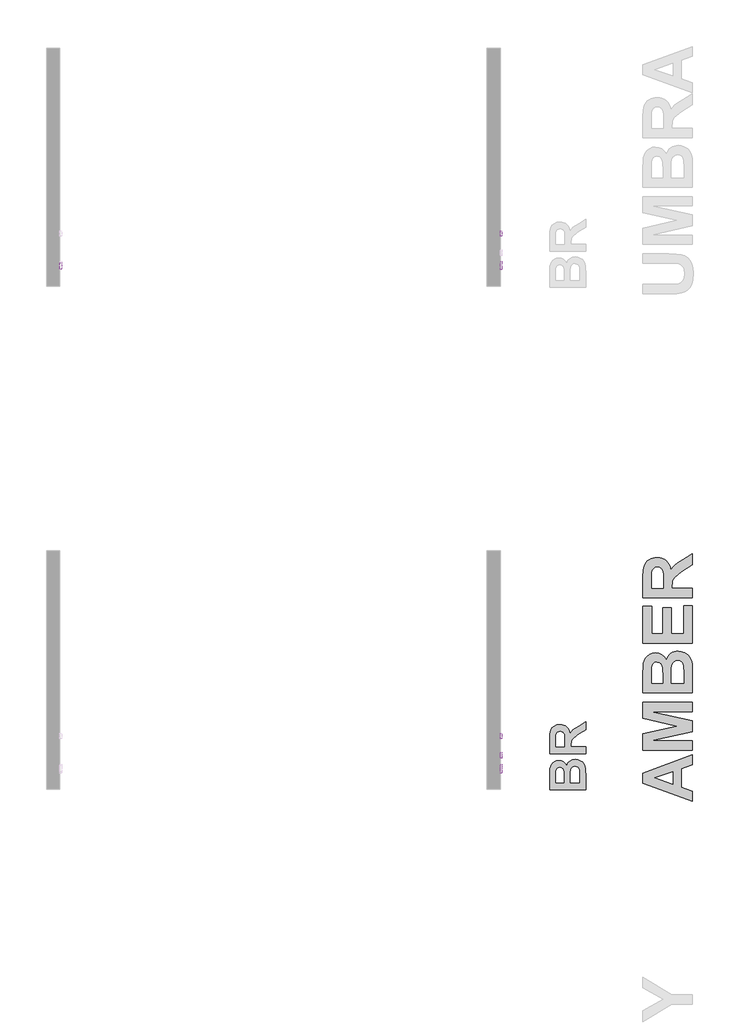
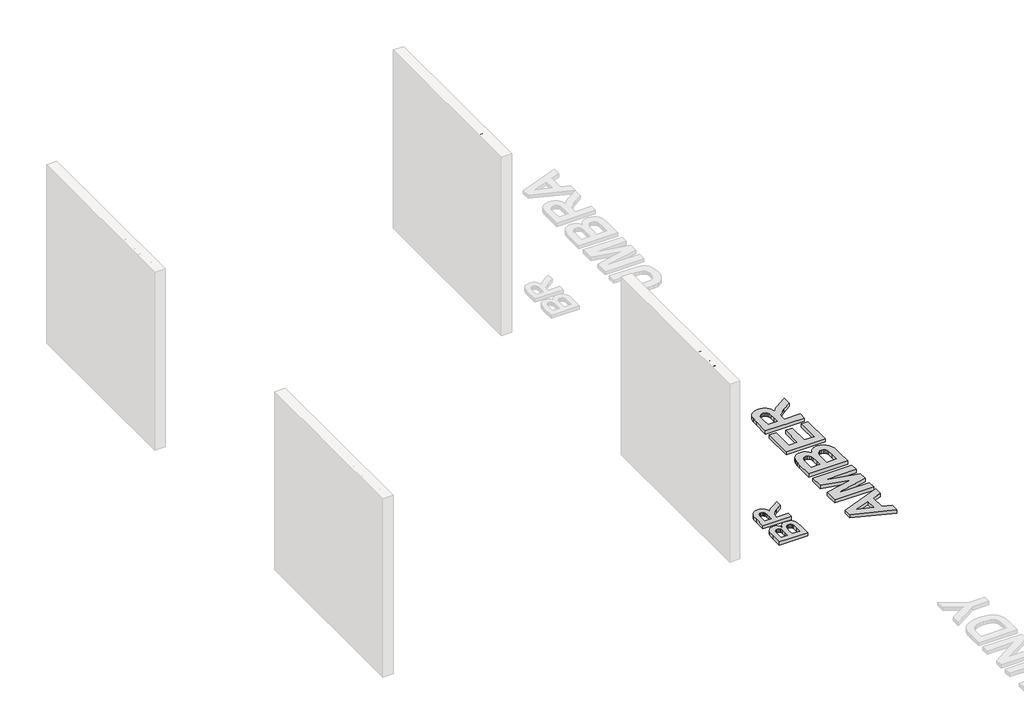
# One storey, part 8 of 10: 8 proxies.
"""IFC4 building model written with IfcOpenShell, lengths in millimetres."""

from ifc_helpers import new_model, si_unit, frame, origin, origin_with_axes, place, context, project, spatial, polyline, outline, extrude, element, save

model = new_model("IFC4")

# Units and contexts
model_context = context("Model", 3, world=origin())
ifc_project = project(units=[si_unit("LENGTHUNIT", "METRE", prefix="MILLI")], contexts=[model_context])

# Site, building, storey
site = spatial("IfcSite", under=ifc_project)
building = spatial("IfcBuilding", under=site)
storey = spatial("IfcBuildingStorey", under=building, Name="PORTOBELLO - SHOWROOM", Elevation=0.0)

# Proxies
placement = place(None, origin())
element("IfcBuildingElementProxy", 1, Name="10mm Arial", ObjectType="10mm Arial", at=placement, inside=storey, context=model_context, shape_type="SweptSolid", body=[
    extrude(outline(polyline([(15160.313312, 2410.158275), (15172.8703507, 2411.7279049), (15179.1979211, 2398.7907214), (15192.3190456, 2394.4619766), (15201.3198917, 2395.9672271), (15208.064395, 2400.4829786), (15212.2766438, 2407.4880649), (15213.6807267, 2416.4613199), (15208.4200142, 2431.3728034), (15201.8134667, 2435.4746877), (15192.5152493, 2436.8419824), (15181.4910522, 2434.6592159), (15174.4399806, 2428.9938332), (15161.8829418, 2430.563463), (15172.8703507, 2482.361248), (15221.528876, 2482.361248), (15221.528876, 2469.8042092), (15183.0238938, 2469.8042092), (15177.6282912, 2442.1394832), (15186.5984805, 2447.5841367), (15195.9978655, 2449.3990212), (15207.7333012, 2447.1488097), (15217.482174, 2440.3981751), (15224.0488676, 2430.1097419), (15226.2377655, 2417.2461348), (15224.2695968, 2404.6890961), (15218.3650908, 2393.9469418), (15207.0588508, 2384.9154388), (15192.2699946, 2381.9049378), (15179.9367507, 2383.839384), (15170.1112358, 2389.6427224), (15163.3759296, 2398.6405029), (15160.313312, 2410.158275)])), frame((-12116.0080774, 0.0, 0.0), z_axis=(1.0, 0.0, 0.0), x_axis=(0.0, 1.0, 0.0)), (0.0, 0.0, 1.0), 20.0),
    extrude(outline(polyline([(15243.5036938, 2383.4745677), (15243.5036938, 2396.0316064), (15256.0607326, 2396.0316064), (15256.0607326, 2383.4745677), (15253.8043897, 2370.635486), (15246.6429535, 2363.0693797), (15243.5036938, 2367.7782692), (15248.1144815, 2373.1983973), (15249.7576877, 2383.4745677), (15243.5036938, 2383.4745677)])), frame((-12116.0080774, 0.0, 0.0), z_axis=(1.0, 0.0, 0.0), x_axis=(0.0, 1.0, 0.0)), (0.0, 0.0, 1.0), 20.0),
    extrude(outline(polyline([(15317.2762966, 2383.4745677), (15317.2762966, 2407.0190154), (15271.7570311, 2407.0190154), (15271.7570311, 2419.5760541), (15320.4155563, 2482.361248), (15329.8333354, 2482.361248), (15329.8333354, 2419.5760541), (15342.3903741, 2419.5760541), (15342.3903741, 2407.0190154), (15329.8333354, 2407.0190154), (15329.8333354, 2383.4745677), (15317.2762966, 2383.4745677)]), holes=[polyline([(15317.2762966, 2419.5760541), (15317.2762966, 2458.3753419), (15287.2080748, 2419.5760541), (15317.2762966, 2419.5760541)])]), frame((-12116.0080774, 0.0, 0.0), z_axis=(1.0, 0.0, 0.0), x_axis=(0.0, 1.0, 0.0)), (0.0, 0.0, 1.0), 20.0),
    extrude(outline(polyline([(15348.6688935, 2383.4745677), (15375.4997537, 2420.5815982), (15350.2385234, 2457.2471704), (15365.2971597, 2457.2471704), (15377.4863165, 2439.5643092), (15383.2007501, 2431.2501761), (15388.1548943, 2438.0682557), (15402.0363083, 2457.2471704), (15417.1439955, 2457.2471704), (15390.607441, 2420.5570728), (15416.1629769, 2383.4745677), (15401.0798151, 2383.4745677), (15385.6778222, 2405.792742), (15382.8819191, 2409.8884949), (15363.7765808, 2383.4745677), (15348.6688935, 2383.4745677)])), frame((-12116.0080774, 0.0, 0.0), z_axis=(1.0, 0.0, 0.0), x_axis=(0.0, 1.0, 0.0)), (0.0, 0.0, 1.0), 20.0),
    extrude(outline(polyline([(15471.1000215, 2383.4745677), (15458.5429827, 2383.4745677), (15458.5429827, 2461.7598562), (15446.6481316, 2453.2863076), (15433.4289052, 2446.9464746), (15433.4289052, 2458.8168003), (15451.8352677, 2470.5644987), (15463.0066176, 2483.9308778), (15471.1000215, 2483.9308778), (15471.1000215, 2383.4745677)])), frame((-12116.0080774, 0.0, 0.0), z_axis=(1.0, 0.0, 0.0), x_axis=(0.0, 1.0, 0.0)), (0.0, 0.0, 1.0), 20.0),
    extrude(outline(polyline([(15548.011884, 2383.4745677), (15535.4548452, 2383.4745677), (15535.4548452, 2461.7598562), (15523.559994, 2453.2863076), (15510.3407677, 2446.9464746), (15510.3407677, 2458.8168003), (15528.7471301, 2470.5644987), (15539.9184801, 2483.9308778), (15548.011884, 2483.9308778), (15548.011884, 2383.4745677)])), frame((-12116.0080774, 0.0, 0.0), z_axis=(1.0, 0.0, 0.0), x_axis=(0.0, 1.0, 0.0)), (0.0, 0.0, 1.0), 20.0),
    extrude(outline(polyline([(15584.1133704, 2383.4745677), (15584.1133704, 2396.0316064), (15596.6704092, 2396.0316064), (15596.6704092, 2383.4745677), (15594.4140663, 2370.635486), (15587.2526301, 2363.0693797), (15584.1133704, 2367.7782692), (15588.7241581, 2373.1983973), (15590.3673643, 2383.4745677), (15584.1133704, 2383.4745677)])), frame((-12116.0080774, 0.0, 0.0), z_axis=(1.0, 0.0, 0.0), x_axis=(0.0, 1.0, 0.0)), (0.0, 0.0, 1.0), 20.0),
    extrude(outline(polyline([(15617.0755972, 2410.158275), (15629.632636, 2411.7279049), (15635.9602063, 2398.7907214), (15649.0813308, 2394.4619766), (15658.0821769, 2395.9672271), (15664.8266802, 2400.4829786), (15669.038929, 2407.4880649), (15670.443012, 2416.4613199), (15665.1822994, 2431.3728034), (15658.5757519, 2435.4746877), (15649.2775345, 2436.8419824), (15638.2533374, 2434.6592159), (15631.2022658, 2428.9938332), (15618.645227, 2430.563463), (15629.632636, 2482.361248), (15678.2911612, 2482.361248), (15678.2911612, 2469.8042092), (15639.786179, 2469.8042092), (15634.3905764, 2442.1394832), (15643.3607657, 2447.5841367), (15652.7601507, 2449.3990212), (15664.4955864, 2447.1488097), (15674.2444592, 2440.3981751), (15680.8111529, 2430.1097419), (15683.0000507, 2417.2461348), (15681.0318821, 2404.6890961), (15675.127376, 2393.9469418), (15663.821136, 2384.9154388), (15649.0322798, 2381.9049378), (15636.6990359, 2383.839384), (15626.873521, 2389.6427224), (15620.1382148, 2398.6405029), (15617.0755972, 2410.158275)])), frame((-12116.0080774, 0.0, 0.0), z_axis=(1.0, 0.0, 0.0), x_axis=(0.0, 1.0, 0.0)), (0.0, 0.0, 1.0), 20.0),
])
element("IfcBuildingElementProxy", 2, Name="10mm Arial", ObjectType="10mm Arial", at=placement, inside=storey, context=model_context, shape_type="SweptSolid", body=[
    extrude(outline(polyline([(9453.3480795, 2518.4745677), (9493.447217, 2618.9308778), (9504.1403203, 2618.9308778), (9544.2149323, 2518.4745677), (9530.9466551, 2518.4745677), (9519.4687368, 2549.8671646), (9478.0697496, 2549.8671646), (9466.5918314, 2518.4745677), (9453.3480795, 2518.4745677)]), holes=[polyline([(9482.6805373, 2562.4242034), (9514.8824746, 2562.4242034), (9505.808052, 2587.121348), (9498.7692432, 2606.373839), (9492.5152493, 2589.279589), (9482.6805373, 2562.4242034)])]), frame((-7116.0080774, 0.0, 0.0), z_axis=(1.0, 0.0, 0.0), x_axis=(0.0, 1.0, 0.0)), (0.0, 0.0, 1.0), 20.0),
    extrude(outline(polyline([(9556.0607326, 2518.4745677), (9556.0607326, 2592.2471704), (9568.6177714, 2592.2471704), (9568.6177714, 2580.1070646), (9577.2507355, 2590.0521412), (9589.5379942, 2593.8168003), (9602.1195584, 2589.9785648), (9609.0357399, 2579.2241478), (9618.8336637, 2590.1686372), (9631.2067615, 2593.8168003), (9640.6460003, 2592.299287), (9647.6265612, 2587.7467474), (9651.9399776, 2580.0365539), (9653.377783, 2569.0460793), (9653.377783, 2518.4745677), (9640.8207443, 2518.4745677), (9640.8207443, 2563.6504767), (9639.6557846, 2574.1351135), (9635.4374044, 2579.2977242), (9628.2637055, 2581.2597615), (9615.9151332, 2576.2320409), (9612.2271162, 2569.6898728), (9610.9977772, 2560.1188095), (9610.9977772, 2518.4745677), (9598.4407384, 2518.4745677), (9598.4407384, 2565.0484283), (9595.5344707, 2577.2130596), (9586.006327, 2581.2597615), (9576.7111753, 2578.5619602), (9570.5307577, 2570.66476), (9568.6177714, 2555.6797001), (9568.6177714, 2518.4745677), (9556.0607326, 2518.4745677)])), frame((-7116.0080774, 0.0, 0.0), z_axis=(1.0, 0.0, 0.0), x_axis=(0.0, 1.0, 0.0)), (0.0, 0.0, 1.0), 20.0),
    extrude(outline(polyline([(9684.77038, 2518.4745677), (9672.2133412, 2518.4745677), (9672.2133412, 2618.9308778), (9684.77038, 2618.9308778), (9684.77038, 2581.6766944), (9693.5627597, 2590.7817738), (9704.4888549, 2593.8168003), (9717.0704191, 2591.0822108), (9726.8315548, 2583.3934771), (9732.8280313, 2571.4373122), (9734.998535, 2556.464515), (9732.7513892, 2539.7013588), (9726.0099516, 2527.2301591), (9716.1169916, 2519.4862431), (9704.4152785, 2516.9049378), (9693.25006, 2520.2342699), (9684.77038, 2530.222266), (9684.77038, 2518.4745677)]), holes=[polyline([(9684.77038, 2555.8759038), (9688.2039453, 2538.3156699), (9694.7829016, 2531.6753999), (9703.336158, 2529.4619766), (9710.5834333, 2531.0929201), (9716.7761135, 2535.9857506), (9721.0251506, 2544.1098114), (9722.4414963, 2555.4344454), (9721.0833986, 2566.9246264), (9717.0091055, 2574.9567167), (9711.0095633, 2579.6840003), (9703.8757183, 2581.2597615), (9696.6284429, 2579.628818), (9690.4357627, 2574.7359875), (9686.1867257, 2566.7590795), (9684.77038, 2555.8759038)])]), frame((-7116.0080774, 0.0, 0.0), z_axis=(1.0, 0.0, 0.0), x_axis=(0.0, 1.0, 0.0)), (0.0, 0.0, 1.0), 20.0),
    extrude(outline(polyline([(9800.7758358, 2540.4493855), (9813.0876199, 2538.8797557), (9808.6515762, 2529.602998), (9801.5729134, 2522.6684224), (9792.0110472, 2518.345809), (9780.1253931, 2516.9049378), (9765.3917192, 2519.391207), (9754.0548224, 2526.8500144), (9746.8259412, 2538.7969822), (9744.4163141, 2554.7477324), (9746.8504667, 2571.2349771), (9754.1529243, 2583.5651553), (9765.3365369, 2591.253889), (9779.4141546, 2593.8168003), (9793.0533796, 2591.2600204), (9803.9518837, 2583.5896808), (9811.0979914, 2571.2840281), (9813.4800273, 2554.8213088), (9813.4064509, 2551.4367944), (9756.9733529, 2551.4367944), (9759.1469223, 2542.0374095), (9764.1961027, 2535.1273593), (9771.4832319, 2530.8783223), (9780.3706478, 2529.4619766), (9792.6824319, 2532.0862015), (9800.7758358, 2540.4493855)]), holes=[polyline([(9756.9733529, 2563.9938332), (9800.9229886, 2563.9938332), (9795.895268, 2575.3736496), (9788.5744163, 2579.7882335), (9779.3651037, 2581.2597615), (9763.9017971, 2576.5631347), (9759.0365577, 2571.0724959), (9756.9733529, 2563.9938332)])]), frame((-7116.0080774, 0.0, 0.0), z_axis=(1.0, 0.0, 0.0), x_axis=(0.0, 1.0, 0.0)), (0.0, 0.0, 1.0), 20.0),
    extrude(outline(polyline([(9826.0370661, 2518.4745677), (9826.0370661, 2592.2471704), (9837.024475, 2592.2471704), (9837.024475, 2581.3333379), (9844.8235733, 2591.3887791), (9852.6717226, 2593.8168003), (9865.2778123, 2589.9417766), (9861.0839575, 2578.6845875), (9852.2547896, 2581.2597615), (9845.1546671, 2578.7826894), (9840.6297186, 2571.9155588), (9838.5941049, 2557.24933), (9838.5941049, 2518.4745677), (9826.0370661, 2518.4745677)])), frame((-7116.0080774, 0.0, 0.0), z_axis=(1.0, 0.0, 0.0), x_axis=(0.0, 1.0, 0.0)), (0.0, 0.0, 1.0), 20.0),
])
element("IfcBuildingElementProxy", 3, Name="10mm Arial", ObjectType="10mm Arial", at=placement, inside=storey, context=model_context, shape_type="SweptSolid", body=[
    extrude(outline(polyline([(9507.4022074, 2383.4745677), (9494.8451686, 2383.4745677), (9494.8451686, 2461.7598562), (9482.9503174, 2453.2863076), (9469.7310911, 2446.9464746), (9469.7310911, 2458.8168003), (9488.1374535, 2470.5644987), (9499.3088035, 2483.9308778), (9507.4022074, 2483.9308778), (9507.4022074, 2383.4745677)])), frame((-7116.0080774, 0.0, 0.0), z_axis=(1.0, 0.0, 0.0), x_axis=(0.0, 1.0, 0.0)), (0.0, 0.0, 1.0), 20.0),
    extrude(outline(polyline([(9584.3140698, 2383.4745677), (9571.7570311, 2383.4745677), (9571.7570311, 2461.7598562), (9559.8621799, 2453.2863076), (9546.6429535, 2446.9464746), (9546.6429535, 2458.8168003), (9565.049316, 2470.5644987), (9576.2206659, 2483.9308778), (9584.3140698, 2483.9308778), (9584.3140698, 2383.4745677)])), frame((-7116.0080774, 0.0, 0.0), z_axis=(1.0, 0.0, 0.0), x_axis=(0.0, 1.0, 0.0)), (0.0, 0.0, 1.0), 20.0),
    extrude(outline(polyline([(9620.4155563, 2383.4745677), (9620.4155563, 2396.0316064), (9632.972595, 2396.0316064), (9632.972595, 2383.4745677), (9630.7162521, 2370.635486), (9623.554816, 2363.0693797), (9620.4155563, 2367.7782692), (9625.026344, 2373.1983973), (9626.6695502, 2383.4745677), (9620.4155563, 2383.4745677)])), frame((-7116.0080774, 0.0, 0.0), z_axis=(1.0, 0.0, 0.0), x_axis=(0.0, 1.0, 0.0)), (0.0, 0.0, 1.0), 20.0),
    extrude(outline(polyline([(9653.377783, 2410.158275), (9665.9348218, 2411.7279049), (9672.2623921, 2398.7907214), (9685.3835166, 2394.4619766), (9694.3843628, 2395.9672271), (9701.128866, 2400.4829786), (9705.3411149, 2407.4880649), (9706.7451978, 2416.4613199), (9701.4844853, 2431.3728034), (9694.8779378, 2435.4746877), (9685.5797204, 2436.8419824), (9674.5555232, 2434.6592159), (9667.5044517, 2428.9938332), (9654.9474129, 2430.563463), (9665.9348218, 2482.361248), (9714.593347, 2482.361248), (9714.593347, 2469.8042092), (9676.0883649, 2469.8042092), (9670.6927623, 2442.1394832), (9679.6629516, 2447.5841367), (9689.0623366, 2449.3990212), (9700.7977722, 2447.1488097), (9710.5466451, 2440.3981751), (9717.1133387, 2430.1097419), (9719.3022366, 2417.2461348), (9717.3340679, 2404.6890961), (9711.4295619, 2393.9469418), (9700.1233219, 2384.9154388), (9685.3344657, 2381.9049378), (9673.0012218, 2383.839384), (9663.1757069, 2389.6427224), (9656.4404007, 2398.6405029), (9653.377783, 2410.158275)])), frame((-7116.0080774, 0.0, 0.0), z_axis=(1.0, 0.0, 0.0), x_axis=(0.0, 1.0, 0.0)), (0.0, 0.0, 1.0), 20.0),
    extrude(outline(polyline([(9725.580756, 2383.4745677), (9752.4116161, 2420.5815982), (9727.1503858, 2457.2471704), (9742.2090221, 2457.2471704), (9754.3981789, 2439.5643092), (9760.1126126, 2431.2501761), (9765.0667568, 2438.0682557), (9778.9481707, 2457.2471704), (9794.055858, 2457.2471704), (9767.5193034, 2420.5570728), (9793.0748393, 2383.4745677), (9777.9916775, 2383.4745677), (9762.5896847, 2405.792742), (9759.7937815, 2409.8884949), (9740.6884432, 2383.4745677), (9725.580756, 2383.4745677)])), frame((-7116.0080774, 0.0, 0.0), z_axis=(1.0, 0.0, 0.0), x_axis=(0.0, 1.0, 0.0)), (0.0, 0.0, 1.0), 20.0),
    extrude(outline(polyline([(9848.011884, 2383.4745677), (9835.4548452, 2383.4745677), (9835.4548452, 2461.7598562), (9823.559994, 2453.2863076), (9810.3407677, 2446.9464746), (9810.3407677, 2458.8168003), (9828.7471301, 2470.5644987), (9839.9184801, 2483.9308778), (9848.011884, 2483.9308778), (9848.011884, 2383.4745677)])), frame((-7116.0080774, 0.0, 0.0), z_axis=(1.0, 0.0, 0.0), x_axis=(0.0, 1.0, 0.0)), (0.0, 0.0, 1.0), 20.0),
    extrude(outline(polyline([(9924.9237464, 2383.4745677), (9912.3667077, 2383.4745677), (9912.3667077, 2461.7598562), (9900.4718565, 2453.2863076), (9887.2526301, 2446.9464746), (9887.2526301, 2458.8168003), (9905.6589926, 2470.5644987), (9916.8303425, 2483.9308778), (9924.9237464, 2483.9308778), (9924.9237464, 2383.4745677)])), frame((-7116.0080774, 0.0, 0.0), z_axis=(1.0, 0.0, 0.0), x_axis=(0.0, 1.0, 0.0)), (0.0, 0.0, 1.0), 20.0),
    extrude(outline(polyline([(9961.0252329, 2383.4745677), (9961.0252329, 2396.0316064), (9973.5822716, 2396.0316064), (9973.5822716, 2383.4745677), (9971.3259287, 2370.635486), (9964.1644926, 2363.0693797), (9961.0252329, 2367.7782692), (9965.6360206, 2373.1983973), (9967.2792268, 2383.4745677), (9961.0252329, 2383.4745677)])), frame((-7116.0080774, 0.0, 0.0), z_axis=(1.0, 0.0, 0.0), x_axis=(0.0, 1.0, 0.0)), (0.0, 0.0, 1.0), 20.0),
    extrude(outline(polyline([(9993.9874596, 2410.158275), (10006.5444984, 2411.7279049), (10012.8720687, 2398.7907214), (10025.9931932, 2394.4619766), (10034.9940394, 2395.9672271), (10041.7385426, 2400.4829786), (10045.9507915, 2407.4880649), (10047.3548744, 2416.4613199), (10042.0941619, 2431.3728034), (10035.4876144, 2435.4746877), (10026.189397, 2436.8419824), (10015.1651998, 2434.6592159), (10008.1141283, 2428.9938332), (9995.5570895, 2430.563463), (10006.5444984, 2482.361248), (10055.2030236, 2482.361248), (10055.2030236, 2469.8042092), (10016.6980415, 2469.8042092), (10011.3024389, 2442.1394832), (10020.2726282, 2447.5841367), (10029.6720132, 2449.3990212), (10041.4074488, 2447.1488097), (10051.1563217, 2440.3981751), (10057.7230153, 2430.1097419), (10059.9119132, 2417.2461348), (10057.9437445, 2404.6890961), (10052.0392385, 2393.9469418), (10040.7329985, 2384.9154388), (10025.9441423, 2381.9049378), (10013.6108984, 2383.839384), (10003.7853835, 2389.6427224), (9997.0500773, 2398.6405029), (9993.9874596, 2410.158275)])), frame((-7116.0080774, 0.0, 0.0), z_axis=(1.0, 0.0, 0.0), x_axis=(0.0, 1.0, 0.0)), (0.0, 0.0, 1.0), 20.0),
])
element("IfcBuildingElementProxy", 4, Name="10mm Arial", ObjectType="10mm Arial", at=placement, inside=storey, context=model_context, shape_type="SweptSolid", body=[
    extrude(outline(polyline([(15230.9466551, 2618.9308778), (15243.5036938, 2618.9308778), (15243.5036938, 2560.9772008), (15240.094654, 2536.9545066), (15227.8073954, 2522.4844814), (15217.5434877, 2518.2998237), (15204.5082023, 2516.9049378), (15181.5646286, 2521.7609802), (15173.9249458, 2527.7053401), (15168.8359115, 2535.8263351), (15165.0222015, 2560.9772008), (15165.0222015, 2618.9308778), (15177.5792403, 2618.9308778), (15177.5792403, 2561.4186592), (15180.0563124, 2542.2765328), (15188.5666492, 2532.79744), (15203.3309799, 2529.4619766), (15216.1026165, 2531.1113142), (15224.5945593, 2536.059327), (15229.3586311, 2545.6978353), (15230.9466551, 2561.4186592), (15230.9466551, 2618.9308778)])), frame((-7116.0080774, 0.0, 0.0), z_axis=(1.0, 0.0, 0.0), x_axis=(0.0, 1.0, 0.0)), (0.0, 0.0, 1.0), 20.0),
    extrude(outline(polyline([(15263.9088818, 2518.4745677), (15263.9088818, 2592.2471704), (15276.4659206, 2592.2471704), (15276.4659206, 2580.1070646), (15285.0988847, 2590.0521412), (15297.3861434, 2593.8168003), (15309.9677076, 2589.9785648), (15316.8838891, 2579.2241478), (15326.6818129, 2590.1686372), (15339.0549107, 2593.8168003), (15348.4941496, 2592.299287), (15355.4747104, 2587.7467474), (15359.7881268, 2580.0365539), (15361.2259323, 2569.0460793), (15361.2259323, 2518.4745677), (15348.6688935, 2518.4745677), (15348.6688935, 2563.6504767), (15347.5039339, 2574.1351135), (15343.2855536, 2579.2977242), (15336.1118547, 2581.2597615), (15323.7632824, 2576.2320409), (15320.0752654, 2569.6898728), (15318.8459264, 2560.1188095), (15318.8459264, 2518.4745677), (15306.2888877, 2518.4745677), (15306.2888877, 2565.0484283), (15303.3826199, 2577.2130596), (15293.8544762, 2581.2597615), (15284.5593245, 2578.5619602), (15278.378907, 2570.66476), (15276.4659206, 2555.6797001), (15276.4659206, 2518.4745677), (15263.9088818, 2518.4745677)])), frame((-7116.0080774, 0.0, 0.0), z_axis=(1.0, 0.0, 0.0), x_axis=(0.0, 1.0, 0.0)), (0.0, 0.0, 1.0), 20.0),
    extrude(outline(polyline([(15392.6185292, 2518.4745677), (15380.0614904, 2518.4745677), (15380.0614904, 2618.9308778), (15392.6185292, 2618.9308778), (15392.6185292, 2581.6766944), (15401.4109089, 2590.7817738), (15412.3370041, 2593.8168003), (15424.9185684, 2591.0822108), (15434.679704, 2583.3934771), (15440.6761805, 2571.4373122), (15442.8466843, 2556.464515), (15440.5995384, 2539.7013588), (15433.8581009, 2527.2301591), (15423.9651409, 2519.4862431), (15412.2634277, 2516.9049378), (15401.0982092, 2520.2342699), (15392.6185292, 2530.222266), (15392.6185292, 2518.4745677)]), holes=[polyline([(15392.6185292, 2555.8759038), (15396.0520945, 2538.3156699), (15402.6310508, 2531.6753999), (15411.1843072, 2529.4619766), (15418.4315825, 2531.0929201), (15424.6242628, 2535.9857506), (15428.8732998, 2544.1098114), (15430.2896455, 2555.4344454), (15428.9315478, 2566.9246264), (15424.8572547, 2574.9567167), (15418.8577125, 2579.6840003), (15411.7238675, 2581.2597615), (15404.4765922, 2579.628818), (15398.2839119, 2574.7359875), (15394.0348749, 2566.7590795), (15392.6185292, 2555.8759038)])]), frame((-7116.0080774, 0.0, 0.0), z_axis=(1.0, 0.0, 0.0), x_axis=(0.0, 1.0, 0.0)), (0.0, 0.0, 1.0), 20.0),
    extrude(outline(polyline([(15456.9733529, 2518.4745677), (15456.9733529, 2592.2471704), (15467.9607618, 2592.2471704), (15467.9607618, 2581.3333379), (15475.7598601, 2591.3887791), (15483.6080093, 2593.8168003), (15496.214099, 2589.9417766), (15492.0202443, 2578.6845875), (15483.1910764, 2581.2597615), (15476.0909539, 2578.7826894), (15471.5660054, 2571.9155588), (15469.5303917, 2557.24933), (15469.5303917, 2518.4745677), (15456.9733529, 2518.4745677)])), frame((-7116.0080774, 0.0, 0.0), z_axis=(1.0, 0.0, 0.0), x_axis=(0.0, 1.0, 0.0)), (0.0, 0.0, 1.0), 20.0),
    extrude(outline(polyline([(15551.1511437, 2527.8923467), (15538.9742496, 2519.3820099), (15525.5220313, 2516.9049378), (15515.0281974, 2518.3948599), (15507.2873471, 2522.8646261), (15502.5140782, 2529.6520489), (15500.9229886, 2538.0949407), (15503.3264843, 2548.0277546), (15509.6417919, 2555.2382417), (15518.4341715, 2559.3585201), (15529.2989531, 2561.246981), (15551.0775673, 2565.563463), (15551.1511437, 2568.3593662), (15547.6930529, 2577.6299925), (15533.8116389, 2581.2597615), (15521.1074474, 2578.8440031), (15515.0496572, 2570.2723526), (15502.4926184, 2571.8419824), (15507.9250092, 2584.1047156), (15518.8633672, 2591.2906772), (15535.4303197, 2593.8168003), (15550.6483716, 2591.5849828), (15559.2445475, 2585.9809138), (15563.0950458, 2577.4583142), (15563.7081824, 2566.4709053), (15563.7081824, 2550.8481832), (15564.3458445, 2529.0327809), (15566.8474421, 2518.4745677), (15554.2904033, 2518.4745677), (15551.1511437, 2527.8923467)]), holes=[polyline([(15551.1511437, 2553.0064243), (15530.8931085, 2549.1559261), (15520.0896405, 2547.1203124), (15515.19681, 2543.8093744), (15513.4800273, 2538.9778575), (15517.220161, 2532.1843033), (15528.1953072, 2529.4619766), (15540.8994987, 2532.4663462), (15549.0910045, 2539.738147), (15551.0775673, 2549.4502317), (15551.1511437, 2553.0064243)])]), frame((-7116.0080774, 0.0, 0.0), z_axis=(1.0, 0.0, 0.0), x_axis=(0.0, 1.0, 0.0)), (0.0, 0.0, 1.0), 20.0),
])
element("IfcBuildingElementProxy", 5, Name="10mm Arial Narrow", ObjectType="10mm Arial Narrow", at=placement, inside=storey, context=model_context, shape_type="SweptSolid", body=[
    extrude(outline(polyline([(9946.9277964, 2518.4745677), (9946.9277964, 2615.7916181), (9977.1676964, 2615.7916181), (9992.9130458, 2613.9767336), (10003.9985566, 2604.8164719), (10008.1433604, 2588.3721467), (10006.4173807, 2576.7041561), (10001.2394416, 2567.402873), (9991.8247282, 2561.314426), (9977.3884256, 2559.2849437), (9956.3455754, 2559.2849437), (9956.3455754, 2518.4745677), (9946.9277964, 2518.4745677)]), holes=[polyline([(9956.3455754, 2570.2723526), (9978.5411225, 2570.2723526), (9993.869539, 2574.6501483), (9998.7255813, 2587.857112), (9996.3343483, 2597.6795612), (9990.558601, 2603.2836303), (9978.3203933, 2604.8042092), (9956.3455754, 2604.8042092), (9956.3455754, 2570.2723526)])]), frame((-7116.0080774, 0.0, 0.0), z_axis=(1.0, 0.0, 0.0), x_axis=(0.0, 1.0, 0.0)), (0.0, 0.0, 1.0), 20.0),
    extrude(outline(polyline([(10015.9915096, 2553.7912392), (10017.8799705, 2569.8216971), (10023.5453532, 2581.3701261), (10032.104741, 2588.350687), (10042.675217, 2590.6775406), (10053.1230656, 2588.350687), (10061.7069789, 2581.3701261), (10067.445938, 2570.0056381), (10069.3589244, 2554.5270032), (10067.4796605, 2537.9447223), (10061.8418689, 2526.2123523), (10053.2916782, 2519.2317914), (10042.675217, 2516.9049378), (10032.1813831, 2519.2379228), (10023.6066669, 2526.2368778), (10017.8952989, 2537.7914381), (10015.9915096, 2553.7912392)]), holes=[polyline([(10025.4092887, 2553.8157647), (10026.6692845, 2541.6879216), (10030.449272, 2533.1162711), (10036.093195, 2528.0211054), (10042.9449971, 2526.3227169), (10049.4381143, 2528.0364339), (10054.9379502, 2533.1775847), (10058.6903465, 2541.7645636), (10059.9411453, 2553.8157647), (10058.6811495, 2565.9068196), (10054.901162, 2574.4662073), (10049.257239, 2579.561373), (10042.4054369, 2581.2597615), (10035.8663344, 2579.5521759), (10030.3756956, 2574.4294191), (10026.6508904, 2565.8608343), (10025.4092887, 2553.8157647)])]), frame((-7116.0080774, 0.0, 0.0), z_axis=(1.0, 0.0, 0.0), x_axis=(0.0, 1.0, 0.0)), (0.0, 0.0, 1.0), 20.0),
    extrude(outline(polyline([(10138.4226376, 2526.3227169), (10139.9922674, 2516.9049378), (10132.8798822, 2516.9049378), (10124.8845802, 2518.9528143), (10120.7152509, 2524.5568833), (10119.5870794, 2538.7080774), (10119.5870794, 2579.6901317), (10111.7389302, 2579.6901317), (10111.7389302, 2582.8293914), (10110.1693004, 2578.1205018), (10102.8607114, 2579.6901317), (10096.9868622, 2577.4460515), (10093.2467286, 2571.1797948), (10091.3337422, 2556.2928368), (10091.3337422, 2518.4745677), (10081.9159631, 2518.4745677), (10081.9159631, 2589.1079107), (10091.3337422, 2589.1079107), (10091.3337422, 2579.7391826), (10097.3670069, 2588.5192995), (10103.5474244, 2590.6775406), (10111.7389302, 2589.1079107), (10119.5870794, 2589.1079107), (10119.5870794, 2604.8042092), (10129.0048585, 2612.6523584), (10129.0048585, 2589.1079107), (10138.4226376, 2589.1079107), (10138.4226376, 2579.6901317), (10129.0048585, 2579.6901317), (10129.0048585, 2536.5498364), (10129.8387244, 2528.8243145), (10134.3023592, 2526.3227169), (10138.4226376, 2526.3227169)])), frame((-7116.0080774, 0.0, 0.0), z_axis=(1.0, 0.0, 0.0), x_axis=(0.0, 1.0, 0.0)), (0.0, 0.0, 1.0), 20.0),
    extrude(outline(polyline([(10144.701157, 2553.7912392), (10146.5896179, 2569.8216971), (10152.2550006, 2581.3701261), (10160.8143884, 2588.350687), (10171.3848644, 2590.6775406), (10181.832713, 2588.350687), (10190.4166262, 2581.3701261), (10196.1555854, 2570.0056381), (10198.0685717, 2554.5270032), (10196.1893079, 2537.9447223), (10190.5515163, 2526.2123523), (10182.0013256, 2519.2317914), (10171.3848644, 2516.9049378), (10160.8910304, 2519.2379228), (10152.3163143, 2526.2368778), (10146.6049463, 2537.7914381), (10144.701157, 2553.7912392)]), holes=[polyline([(10154.1189361, 2553.8157647), (10155.3789319, 2541.6879216), (10159.1589194, 2533.1162711), (10164.8028423, 2528.0211054), (10171.6546445, 2526.3227169), (10178.1477617, 2528.0364339), (10183.6475975, 2533.1775847), (10187.3999939, 2541.7645636), (10188.6507927, 2553.8157647), (10187.3907968, 2565.9068196), (10183.6108093, 2574.4662073), (10177.9668864, 2579.561373), (10171.1150842, 2581.2597615), (10164.5759818, 2579.5521759), (10159.085343, 2574.4294191), (10155.3605378, 2565.8608343), (10154.1189361, 2553.8157647)])]), frame((-7116.0080774, 0.0, 0.0), z_axis=(1.0, 0.0, 0.0), x_axis=(0.0, 1.0, 0.0)), (0.0, 0.0, 1.0), 20.0),
    extrude(outline(polyline([(10220.0433896, 2518.4745677), (10210.6256105, 2518.4745677), (10210.6256105, 2615.7916181), (10220.0433896, 2615.7916181), (10220.0433896, 2581.5785926), (10227.192563, 2588.4211977), (10236.0830446, 2590.6775406), (10248.5297187, 2586.6185759), (10257.4937767, 2574.3190545), (10260.8537656, 2554.3307995), (10258.9867645, 2538.4321659), (10253.3857611, 2526.641548), (10245.2954229, 2519.3390904), (10235.9604172, 2516.9049378), (10226.9350456, 2519.4310609), (10220.0433896, 2526.9358536), (10220.0433896, 2518.4745677)]), holes=[polyline([(10220.0433896, 2554.3307995), (10222.0544778, 2537.6657451), (10227.744386, 2529.2289847), (10235.9113663, 2526.3227169), (10241.6533911, 2528.0517623), (10246.7148342, 2533.2388984), (10251.4359865, 2553.938392), (10246.8865125, 2574.6501483), (10241.818938, 2579.6073582), (10235.7151626, 2581.2597615), (10229.9394153, 2579.5307161), (10224.8258555, 2574.34358), (10220.0433896, 2554.3307995)])]), frame((-7116.0080774, 0.0, 0.0), z_axis=(1.0, 0.0, 0.0), x_axis=(0.0, 1.0, 0.0)), (0.0, 0.0, 1.0), 20.0),
    extrude(outline(polyline([(10311.0819207, 2540.4493855), (10320.4996997, 2538.8797557), (10311.3026499, 2522.4476932), (10294.8215365, 2516.9049378), (10283.6195297, 2519.2379228), (10274.7842305, 2526.2368778), (10269.0452713, 2537.6442853), (10267.132285, 2553.202628), (10269.0544684, 2569.3066623), (10274.8210187, 2581.0758205), (10283.5306249, 2588.2771106), (10294.2819762, 2590.6775406), (10304.6041319, 2588.359884), (10313.0562207, 2581.4069143), (10318.6940123, 2570.0638861), (10320.5732761, 2554.5760541), (10320.4996997, 2551.4367944), (10276.550064, 2551.4367944), (10282.3503368, 2532.6502872), (10288.0800989, 2527.9046095), (10294.9441638, 2526.3227169), (10304.7788758, 2529.854384), (10311.0819207, 2540.4493855)]), holes=[polyline([(10277.1877262, 2560.8545735), (10311.0819207, 2560.8545735), (10306.9616423, 2574.6378856), (10301.3330478, 2579.6042925), (10294.3555526, 2581.2597615), (10282.5588033, 2575.7415316), (10277.1877262, 2560.8545735)])]), frame((-7116.0080774, 0.0, 0.0), z_axis=(1.0, 0.0, 0.0), x_axis=(0.0, 1.0, 0.0)), (0.0, 0.0, 1.0), 20.0),
    extrude(outline(polyline([(-7096.0080774, 10342.4745176), (-7096.0080774, 10333.0567385), (-7116.0080774, 10333.0567385), (-7116.0080774, 10342.4745176), (-7096.0080774, 10342.4745176)])), frame((0.0, 0.0, 2518.4745677), z_axis=(0.0, 0.0, 1.0), x_axis=(1.0, 0.0, 0.0)), (0.0, 0.0, 1.0), 97.3170505),
    extrude(outline(polyline([(-7096.0080774, 10367.5885951), (-7096.0080774, 10358.170816), (-7116.0080774, 10358.170816), (-7116.0080774, 10367.5885951), (-7096.0080774, 10367.5885951)])), frame((0.0, 0.0, 2518.4745677), z_axis=(0.0, 0.0, 1.0), x_axis=(1.0, 0.0, 0.0)), (0.0, 0.0, 1.0), 97.3170505),
    extrude(outline(polyline([(10378.576004, 2553.7912392), (10380.464465, 2569.8216971), (10386.1298477, 2581.3701261), (10394.6892354, 2588.350687), (10405.2597114, 2590.6775406), (10415.7075601, 2588.350687), (10424.2914733, 2581.3701261), (10430.0304324, 2570.0056381), (10431.9434188, 2554.5270032), (10430.064155, 2537.9447223), (10424.4263634, 2526.2123523), (10415.8761727, 2519.2317914), (10405.2597114, 2516.9049378), (10394.7658775, 2519.2379228), (10386.1911613, 2526.2368778), (10380.4797934, 2537.7914381), (10378.576004, 2553.7912392)]), holes=[polyline([(10387.9937831, 2553.8157647), (10389.253779, 2541.6879216), (10393.0337665, 2533.1162711), (10398.6776894, 2528.0211054), (10405.5294916, 2526.3227169), (10412.0226088, 2528.0364339), (10417.5224446, 2533.1775847), (10421.274841, 2541.7645636), (10422.5256397, 2553.8157647), (10421.2656439, 2565.9068196), (10417.4856564, 2574.4662073), (10411.8417335, 2579.561373), (10404.9899313, 2581.2597615), (10398.4508288, 2579.5521759), (10392.9601901, 2574.4294191), (10389.2353849, 2565.8608343), (10387.9937831, 2553.8157647)])]), frame((-7116.0080774, 0.0, 0.0), z_axis=(1.0, 0.0, 0.0), x_axis=(0.0, 1.0, 0.0)), (0.0, 0.0, 1.0), 20.0),
])
element("IfcBuildingElementProxy", 6, Name="10mm Arial Narrow", ObjectType="10mm Arial Narrow", at=placement, inside=storey, context=model_context, shape_type="SweptSolid", body=[
    extrude(outline(polyline([(15646.9277964, 2518.4745677), (15646.9277964, 2615.7916181), (15677.1676964, 2615.7916181), (15692.9130458, 2613.9767336), (15703.9985566, 2604.8164719), (15708.1433604, 2588.3721467), (15706.4173807, 2576.7041561), (15701.2394416, 2567.402873), (15691.8247282, 2561.314426), (15677.3884256, 2559.2849437), (15656.3455754, 2559.2849437), (15656.3455754, 2518.4745677), (15646.9277964, 2518.4745677)]), holes=[polyline([(15656.3455754, 2570.2723526), (15678.5411225, 2570.2723526), (15693.869539, 2574.6501483), (15698.7255813, 2587.857112), (15696.3343483, 2597.6795612), (15690.558601, 2603.2836303), (15678.3203933, 2604.8042092), (15656.3455754, 2604.8042092), (15656.3455754, 2570.2723526)])]), frame((-7116.0080774, 0.0, 0.0), z_axis=(1.0, 0.0, 0.0), x_axis=(0.0, 1.0, 0.0)), (0.0, 0.0, 1.0), 20.0),
    extrude(outline(polyline([(15715.9915096, 2553.7912392), (15717.8799705, 2569.8216971), (15723.5453532, 2581.3701261), (15732.104741, 2588.350687), (15742.675217, 2590.6775406), (15753.1230656, 2588.350687), (15761.7069789, 2581.3701261), (15767.445938, 2570.0056381), (15769.3589244, 2554.5270032), (15767.4796605, 2537.9447223), (15761.8418689, 2526.2123523), (15753.2916782, 2519.2317914), (15742.675217, 2516.9049378), (15732.1813831, 2519.2379228), (15723.6066669, 2526.2368778), (15717.8952989, 2537.7914381), (15715.9915096, 2553.7912392)]), holes=[polyline([(15725.4092887, 2553.8157647), (15726.6692845, 2541.6879216), (15730.449272, 2533.1162711), (15736.093195, 2528.0211054), (15742.9449971, 2526.3227169), (15749.4381143, 2528.0364339), (15754.9379502, 2533.1775847), (15758.6903465, 2541.7645636), (15759.9411453, 2553.8157647), (15758.6811495, 2565.9068196), (15754.901162, 2574.4662073), (15749.257239, 2579.561373), (15742.4054369, 2581.2597615), (15735.8663344, 2579.5521759), (15730.3756956, 2574.4294191), (15726.6508904, 2565.8608343), (15725.4092887, 2553.8157647)])]), frame((-7116.0080774, 0.0, 0.0), z_axis=(1.0, 0.0, 0.0), x_axis=(0.0, 1.0, 0.0)), (0.0, 0.0, 1.0), 20.0),
    extrude(outline(polyline([(15838.4226376, 2526.3227169), (15839.9922674, 2516.9049378), (15832.8798822, 2516.9049378), (15824.8845802, 2518.9528143), (15820.7152509, 2524.5568833), (15819.5870794, 2538.7080774), (15819.5870794, 2579.6901317), (15811.7389302, 2579.6901317), (15811.7389302, 2582.8293914), (15810.1693004, 2578.1205018), (15802.8607114, 2579.6901317), (15796.9868622, 2577.4460515), (15793.2467286, 2571.1797948), (15791.3337422, 2556.2928368), (15791.3337422, 2518.4745677), (15781.9159631, 2518.4745677), (15781.9159631, 2589.1079107), (15791.3337422, 2589.1079107), (15791.3337422, 2579.7391826), (15797.3670069, 2588.5192995), (15803.5474244, 2590.6775406), (15811.7389302, 2589.1079107), (15819.5870794, 2589.1079107), (15819.5870794, 2604.8042092), (15829.0048585, 2612.6523584), (15829.0048585, 2589.1079107), (15838.4226376, 2589.1079107), (15838.4226376, 2579.6901317), (15829.0048585, 2579.6901317), (15829.0048585, 2536.5498364), (15829.8387244, 2528.8243145), (15834.3023592, 2526.3227169), (15838.4226376, 2526.3227169)])), frame((-7116.0080774, 0.0, 0.0), z_axis=(1.0, 0.0, 0.0), x_axis=(0.0, 1.0, 0.0)), (0.0, 0.0, 1.0), 20.0),
    extrude(outline(polyline([(15844.701157, 2553.7912392), (15846.5896179, 2569.8216971), (15852.2550006, 2581.3701261), (15860.8143884, 2588.350687), (15871.3848644, 2590.6775406), (15881.832713, 2588.350687), (15890.4166262, 2581.3701261), (15896.1555854, 2570.0056381), (15898.0685717, 2554.5270032), (15896.1893079, 2537.9447223), (15890.5515163, 2526.2123523), (15882.0013256, 2519.2317914), (15871.3848644, 2516.9049378), (15860.8910304, 2519.2379228), (15852.3163143, 2526.2368778), (15846.6049463, 2537.7914381), (15844.701157, 2553.7912392)]), holes=[polyline([(15854.1189361, 2553.8157647), (15855.3789319, 2541.6879216), (15859.1589194, 2533.1162711), (15864.8028423, 2528.0211054), (15871.6546445, 2526.3227169), (15878.1477617, 2528.0364339), (15883.6475975, 2533.1775847), (15887.3999939, 2541.7645636), (15888.6507927, 2553.8157647), (15887.3907968, 2565.9068196), (15883.6108093, 2574.4662073), (15877.9668864, 2579.561373), (15871.1150842, 2581.2597615), (15864.5759818, 2579.5521759), (15859.085343, 2574.4294191), (15855.3605378, 2565.8608343), (15854.1189361, 2553.8157647)])]), frame((-7116.0080774, 0.0, 0.0), z_axis=(1.0, 0.0, 0.0), x_axis=(0.0, 1.0, 0.0)), (0.0, 0.0, 1.0), 20.0),
    extrude(outline(polyline([(15920.0433896, 2518.4745677), (15910.6256105, 2518.4745677), (15910.6256105, 2615.7916181), (15920.0433896, 2615.7916181), (15920.0433896, 2581.5785926), (15927.192563, 2588.4211977), (15936.0830446, 2590.6775406), (15948.5297187, 2586.6185759), (15957.4937767, 2574.3190545), (15960.8537656, 2554.3307995), (15958.9867645, 2538.4321659), (15953.3857611, 2526.641548), (15945.2954229, 2519.3390904), (15935.9604172, 2516.9049378), (15926.9350456, 2519.4310609), (15920.0433896, 2526.9358536), (15920.0433896, 2518.4745677)]), holes=[polyline([(15920.0433896, 2554.3307995), (15922.0544778, 2537.6657451), (15927.744386, 2529.2289847), (15935.9113663, 2526.3227169), (15941.6533911, 2528.0517623), (15946.7148342, 2533.2388984), (15951.4359865, 2553.938392), (15946.8865125, 2574.6501483), (15941.818938, 2579.6073582), (15935.7151626, 2581.2597615), (15929.9394153, 2579.5307161), (15924.8258555, 2574.34358), (15920.0433896, 2554.3307995)])]), frame((-7116.0080774, 0.0, 0.0), z_axis=(1.0, 0.0, 0.0), x_axis=(0.0, 1.0, 0.0)), (0.0, 0.0, 1.0), 20.0),
    extrude(outline(polyline([(16011.0819207, 2540.4493855), (16020.4996997, 2538.8797557), (16011.3026499, 2522.4476932), (15994.8215365, 2516.9049378), (15983.6195297, 2519.2379228), (15974.7842305, 2526.2368778), (15969.0452713, 2537.6442853), (15967.132285, 2553.202628), (15969.0544684, 2569.3066623), (15974.8210187, 2581.0758205), (15983.5306249, 2588.2771106), (15994.2819762, 2590.6775406), (16004.6041319, 2588.359884), (16013.0562207, 2581.4069143), (16018.6940123, 2570.0638861), (16020.5732761, 2554.5760541), (16020.4996997, 2551.4367944), (15976.550064, 2551.4367944), (15982.3503368, 2532.6502872), (15988.0800989, 2527.9046095), (15994.9441638, 2526.3227169), (16004.7788758, 2529.854384), (16011.0819207, 2540.4493855)]), holes=[polyline([(15977.1877262, 2560.8545735), (16011.0819207, 2560.8545735), (16006.9616423, 2574.6378856), (16001.3330478, 2579.6042925), (15994.3555526, 2581.2597615), (15982.5588033, 2575.7415316), (15977.1877262, 2560.8545735)])]), frame((-7116.0080774, 0.0, 0.0), z_axis=(1.0, 0.0, 0.0), x_axis=(0.0, 1.0, 0.0)), (0.0, 0.0, 1.0), 20.0),
    extrude(outline(polyline([(-7096.0080774, 16042.4745176), (-7096.0080774, 16033.0567385), (-7116.0080774, 16033.0567385), (-7116.0080774, 16042.4745176), (-7096.0080774, 16042.4745176)])), frame((0.0, 0.0, 2518.4745677), z_axis=(0.0, 0.0, 1.0), x_axis=(1.0, 0.0, 0.0)), (0.0, 0.0, 1.0), 97.3170505),
    extrude(outline(polyline([(-7096.0080774, 16067.5885951), (-7096.0080774, 16058.170816), (-7116.0080774, 16058.170816), (-7116.0080774, 16067.5885951), (-7096.0080774, 16067.5885951)])), frame((0.0, 0.0, 2518.4745677), z_axis=(0.0, 0.0, 1.0), x_axis=(1.0, 0.0, 0.0)), (0.0, 0.0, 1.0), 97.3170505),
    extrude(outline(polyline([(16078.576004, 2553.7912392), (16080.464465, 2569.8216971), (16086.1298477, 2581.3701261), (16094.6892354, 2588.350687), (16105.2597114, 2590.6775406), (16115.7075601, 2588.350687), (16124.2914733, 2581.3701261), (16130.0304324, 2570.0056381), (16131.9434188, 2554.5270032), (16130.064155, 2537.9447223), (16124.4263634, 2526.2123523), (16115.8761727, 2519.2317914), (16105.2597114, 2516.9049378), (16094.7658775, 2519.2379228), (16086.1911613, 2526.2368778), (16080.4797934, 2537.7914381), (16078.576004, 2553.7912392)]), holes=[polyline([(16087.9937831, 2553.8157647), (16089.253779, 2541.6879216), (16093.0337665, 2533.1162711), (16098.6776894, 2528.0211054), (16105.5294916, 2526.3227169), (16112.0226088, 2528.0364339), (16117.5224446, 2533.1775847), (16121.274841, 2541.7645636), (16122.5256397, 2553.8157647), (16121.2656439, 2565.9068196), (16117.4856564, 2574.4662073), (16111.8417335, 2579.561373), (16104.9899313, 2581.2597615), (16098.4508288, 2579.5521759), (16092.9601901, 2574.4294191), (16089.2353849, 2565.8608343), (16087.9937831, 2553.8157647)])]), frame((-7116.0080774, 0.0, 0.0), z_axis=(1.0, 0.0, 0.0), x_axis=(0.0, 1.0, 0.0)), (0.0, 0.0, 1.0), 20.0),
])
element("IfcBuildingElementProxy", 7, Name="400mm Arial", ObjectType="400mm Arial", at=placement, inside=storey, context=model_context, shape_type="SweptSolid", body=[
    extrude(outline(polyline([(-6554.2616634, 9367.7595444), (-6554.2616634, 9535.2723725), (-6550.213015, 9609.4132465), (-6543.9502619, 9632.5664546), (-6533.2592997, 9653.1386494), (-6518.2286925, 9670.8135301), (-6498.9470044, 9685.2747961), (-6476.2366172, 9694.9156402), (-6450.9199126, 9698.1292548), (-6423.3384953, 9694.2956909), (-6398.0850509, 9682.794999), (-6377.0067751, 9664.7152534), (-6361.9508638, 9641.1445284), (-6347.3251214, 9670.9527024), (-6325.1081632, 9692.9672281), (-6296.7929284, 9706.5555044), (-6263.872356, 9711.0849298), (-6236.5313272, 9707.833359), (-6209.974724, 9698.0786467), (-6186.4419551, 9682.6937828), (-6168.1724291, 9662.5517569), (-6155.5330549, 9637.4121807), (-6148.8907411, 9607.0346656), (-6146.1579034, 9507.2354822), (-6146.1579034, 9367.7595444), (-6554.2616634, 9367.7595444)]), holes=[polyline([(-6483.0054513, 9445.4935939), (-6392.3157269, 9445.4935939), (-6392.3157269, 9504.8062932), (-6393.6315376, 9570.5968299), (-6398.3633954, 9591.3081969), (-6407.7005908, 9607.0852737), (-6421.1876509, 9617.0677224), (-6438.3691026, 9620.3952053), (-6454.8040847, 9617.5231954), (-6467.8736279, 9608.9071655), (-6477.0210429, 9594.6483318), (-6481.6896406, 9574.8479107), (-6483.0054513, 9497.518726), (-6483.0054513, 9445.4935939)]), polyline([(-6321.0595148, 9445.4935939), (-6217.4141154, 9445.4935939), (-6217.4141154, 9527.6811567), (-6219.8433045, 9588.6133153), (-6225.2710238, 9606.6044967), (-6235.2787766, 9620.9012864), (-6249.6641305, 9630.2384818), (-6268.224653, 9633.3508802), (-6284.3180305, 9630.9469953), (-6297.7797864, 9623.7353403), (-6308.2809683, 9611.9942599), (-6315.4926232, 9596.0020986), (-6319.6677919, 9567.2566949), (-6321.0595148, 9517.255887), (-6321.0595148, 9445.4935939)])]), origin_with_axes(), (0.0, 0.0, 1.0), 50.0),
    extrude(outline(polyline([(-6146.1579034, 9775.8633044), (-6554.2616634, 9775.8633044), (-6554.2616634, 9947.5259971), (-6551.5035216, 10003.4479533), (-6543.2290964, 10041.6570727), (-6527.8948406, 10068.0745035), (-6503.9572068, 10088.6213942), (-6473.6682559, 10101.8301097), (-6439.2800485, 10106.2330148), (-6417.2085886, 10104.6420225), (-6397.1488009, 10099.8690456), (-6379.1006854, 10091.9140841), (-6363.0642421, 10080.7771379), (-6349.4253577, 10066.4708592), (-6338.5699192, 10049.0078999), (-6330.4979264, 10028.3882601), (-6325.2093794, 10004.6119397), (-6308.9641777, 10027.1578505), (-6291.2007328, 10045.4020724), (-6265.4665113, 10064.2788957), (-6225.3089798, 10088.7226104), (-6146.1579034, 10138.6222021), (-6146.1579034, 10047.8312615), (-6239.3780331, 9988.7209947), (-6294.692692, 9942.3133622), (-6304.29558, 9929.4335995), (-6310.3305965, 9915.7947151), (-6314.5816773, 9871.4114069), (-6314.5816773, 9853.5973539), (-6146.1579034, 9853.5973539), (-6146.1579034, 9775.8633044)]), holes=[polyline([(-6385.8378894, 9853.5973539), (-6385.8378894, 9917.667215), (-6387.0145279, 9968.2373641), (-6390.5444432, 9995.4518726), (-6396.9463685, 10009.2931894), (-6406.7390368, 10019.7437631), (-6419.6567557, 10026.3101648), (-6435.4338325, 10028.4989653), (-6452.9062808, 10025.6143033), (-6466.6590333, 10016.9603173), (-6476.3631375, 10003.0430884), (-6481.6896406, 9984.3686976), (-6483.0054513, 9921.2097824), (-6483.0054513, 9853.5973539), (-6385.8378894, 9853.5973539)])]), origin_with_axes(), (0.0, 0.0, 1.0), 50.0),
])
element("IfcBuildingElementProxy", 8, Name="550mm Arial", ObjectType="550mm Arial", at=placement, inside=storey, context=model_context, shape_type="SweptSolid", body=[
    extrude(outline(polyline([(-4934.615876, 9763.6637877), (-4934.615876, 9651.3517503), (-5059.3142472, 9607.3733069), (-5059.3142472, 9395.5530828), (-4934.615876, 9352.1313286), (-4934.615876, 9238.1492237), (-5495.758546, 9442.7324888), (-5495.758546, 9556.853766), (-4934.615876, 9763.6637877)]), holes=[polyline([(-5157.2915387, 9573.1369238), (-5362.1531484, 9500.9065057), (-5157.2915387, 9429.6502936), (-5157.2915387, 9573.1369238)])]), origin_with_axes(), (0.0, 0.0, 1.0), 50.0),
    extrude(outline(polyline([(-4934.615876, 9817.1059467), (-5495.758546, 9817.1059467), (-5495.758546, 9999.9783347), (-5113.0347508, 10088.7702552), (-5495.758546, 10177.2838311), (-5495.758546, 10360.4345637), (-4934.615876, 10360.4345637), (-4934.615876, 10253.5502456), (-5376.3487219, 10249.0967323), (-4934.615876, 10151.3977853), (-4934.615876, 10026.4210697), (-5376.3487219, 9928.4437781), (-4934.615876, 9923.9902648), (-4934.615876, 9817.1059467)])), origin_with_axes(), (0.0, 0.0, 1.0), 50.0),
    extrude(outline(polyline([(-5495.758546, 10467.3188818), (-5495.758546, 10697.6490204), (-5494.3668231, 10757.3017428), (-5490.1916545, 10799.5927222), (-5481.5803691, 10831.4283833), (-5466.880296, 10859.7151511), (-5446.2132111, 10884.0181121), (-5419.70089, 10903.9023529), (-5388.4741076, 10917.1585135), (-5353.6636388, 10921.5772337), (-5315.73919, 10916.3060832), (-5281.0157038, 10900.4926319), (-5252.0330746, 10875.6329817), (-5231.3311966, 10843.2232349), (-5222.5807389, 10865.0558877), (-5211.2208008, 10884.209474), (-5197.2513823, 10900.6839937), (-5180.6724833, 10914.4794469), (-5161.9973018, 10925.3783768), (-5141.7390354, 10933.1633267), (-5119.8976843, 10937.8342967), (-5096.4732484, 10939.3912867), (-5058.8793338, 10934.9203769), (-5022.3640044, 10921.5076475), (-4990.0064471, 10900.3534596), (-4964.8858489, 10872.658174), (-4947.5067093, 10838.0912567), (-4938.3735279, 10796.3221734), (-4934.615876, 10659.0982963), (-4934.615876, 10467.3188818), (-5495.758546, 10467.3188818)]), holes=[polyline([(-5175.1055918, 10574.2031999), (-5032.5931676, 10574.2031999), (-5032.5931676, 10687.2110987), (-5035.9333026, 10770.9928168), (-5043.3964166, 10795.7306912), (-5057.1570767, 10815.388777), (-5076.9369383, 10828.2274207), (-5102.4576568, 10832.5069686), (-5124.5860508, 10829.2016267), (-5143.0959652, 10819.2856011), (-5157.5350902, 10803.1416156), (-5167.4511158, 10781.1523939), (-5173.1919728, 10741.6274638), (-5175.1055918, 10672.8763529), (-5175.1055918, 10574.2031999)]), polyline([(-5397.7812544, 10574.2031999), (-5273.0828833, 10574.2031999), (-5273.0828833, 10655.7581613), (-5274.8921231, 10746.2201493), (-5281.3984276, 10774.698279), (-5294.2370713, 10796.3917595), (-5312.7817788, 10810.1176266), (-5336.4062749, 10814.6929156), (-5359.0043754, 10810.7439019), (-5376.9749972, 10798.8968607), (-5389.5526928, 10779.2909645), (-5395.9720147, 10752.0653854), (-5397.7812544, 10645.7377565), (-5397.7812544, 10574.2031999)])]), origin_with_axes(), (0.0, 0.0, 1.0), 50.0),
    extrude(outline(polyline([(-4934.615876, 11028.4615518), (-5495.758546, 11028.4615518), (-5495.758546, 11447.0917976), (-5397.7812544, 11447.0917976), (-5397.7812544, 11135.3458698), (-5273.0828833, 11135.3458698), (-5273.0828833, 11429.2777446), (-5175.1055918, 11429.2777446), (-5175.1055918, 11135.3458698), (-5032.5931676, 11135.3458698), (-5032.5931676, 11455.9988241), (-4934.615876, 11455.9988241), (-4934.615876, 11028.4615518)])), origin_with_axes(), (0.0, 0.0, 1.0), 50.0),
    extrude(outline(polyline([(-4934.615876, 11545.0690892), (-5495.758546, 11545.0690892), (-5495.758546, 11781.1052916), (-5491.9661011, 11857.9979814), (-5480.5887665, 11910.5355206), (-5471.5251712, 11929.7065034), (-5459.5041647, 11946.8594881), (-5444.5257471, 11961.9944745), (-5426.5899183, 11975.1114628), (-5406.4708242, 11985.7059533), (-5384.9426108, 11993.2734465), (-5362.0052779, 11997.8139424), (-5337.6588255, 11999.3274411), (-5307.3105682, 11997.1398267), (-5279.7283601, 11990.5769834), (-5254.9122013, 11979.6389113), (-5232.8620918, 11964.3256103), (-5214.1086258, 11944.6544771), (-5199.1823978, 11920.6429081), (-5188.0834077, 11892.2909033), (-5180.8116556, 11859.5984627), (-5158.4745032, 11890.5990902), (-5134.0497664, 11915.6848953), (-5098.6652119, 11941.6405272), (-5043.4486062, 11975.250635), (-4934.615876, 12043.8625736), (-4934.615876, 11919.0250302), (-5062.7935544, 11837.7484133), (-5138.8512104, 11773.9379187), (-5152.0551814, 11756.228245), (-5160.3533291, 11737.474779), (-5164.7372562, 11712.5803358), (-5166.1985652, 11676.4477302), (-5166.1985652, 11651.9534073), (-4934.615876, 11651.9534073), (-4934.615876, 11545.0690892)]), holes=[polyline([(-5264.1758568, 11651.9534073), (-5264.1758568, 11740.0494663), (-5265.7937347, 11809.5834213), (-5270.6473683, 11847.0033706), (-5279.4500156, 11866.0351811), (-5292.9149345, 11880.40472), (-5310.676798, 11889.4335222), (-5332.3702785, 11892.443123), (-5356.3948949, 11888.4767127), (-5375.3049297, 11876.577482), (-5388.648073, 11857.4412923), (-5395.9720147, 11831.7640049), (-5397.7812544, 11744.9204965), (-5397.7812544, 11651.9534073), (-5264.1758568, 11651.9534073)])]), origin_with_axes(), (0.0, 0.0, 1.0), 50.0),
])

save(model, "model.ifc")
